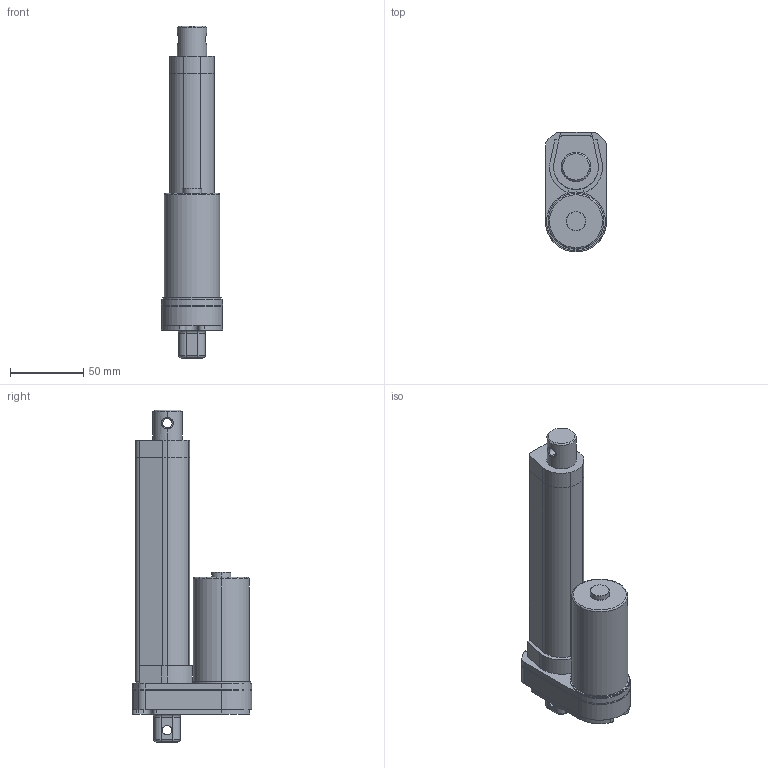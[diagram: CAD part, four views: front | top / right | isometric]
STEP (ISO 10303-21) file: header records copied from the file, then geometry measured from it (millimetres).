
FILE_DESCRIPTION (( 'STEP AP203' ), '1' );
FILE_NAME ('la3100.step', '2014-03-28T03:52:59', ( 'development' ), ( '' ), 'SwSTEP 2.0', 'SolidWorks 2013', '' );
FILE_SCHEMA (( 'CONFIG_CONTROL_DESIGN' ));
Length unit declared in the file: millimetre
Products named in the file (1): la3100
Bounding box: 41.55 x 81.55 x 226 mm (x, y, z)
Surface area: 48925.7 mm2 (no closed solid volume)
Topology: 0 solids, 6 shells, 159 faces, 439 edges, 288 vertices
Faces by surface type: cylinder 82, plane 57, torus 14, bspline 4, cone 2
Entity records: 5584 total; most frequent: CARTESIAN_POINT 1383, DIRECTION 936, ORIENTED_EDGE 780, EDGE_CURVE 439, AXIS2_PLACEMENT_3D 353, VERTEX_POINT 288, VECTOR 230, LINE 230
